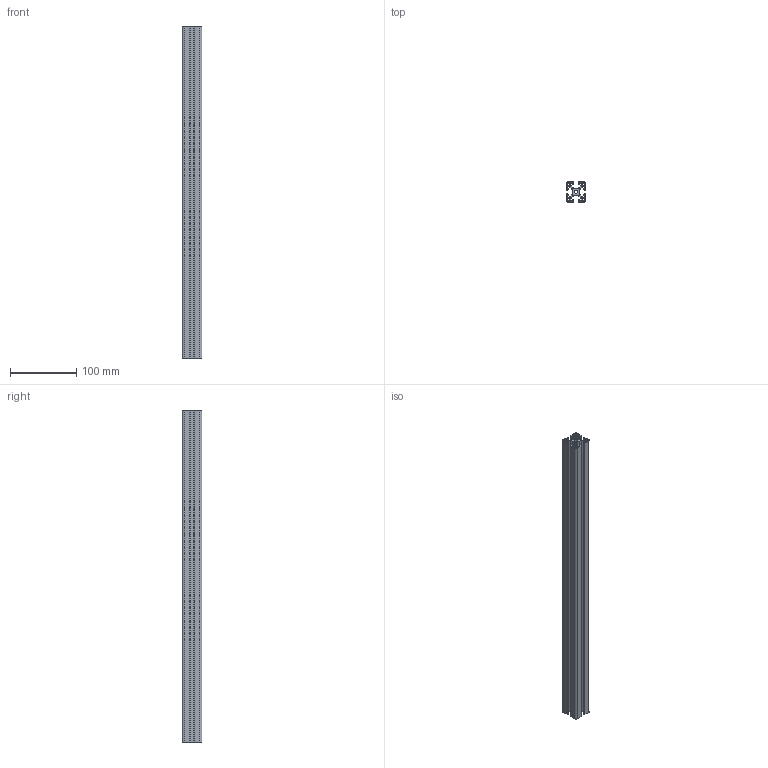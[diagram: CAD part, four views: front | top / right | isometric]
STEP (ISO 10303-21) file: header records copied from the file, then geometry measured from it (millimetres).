
FILE_DESCRIPTION (( 'STEP AP203' ), '1' );
FILE_NAME ('PP3060-500-Rollco.step', '2026-05-04T07:38:46', ( '' ), ( '' ), 'SwSTEP 2.0', 'SolidWorks 2014', '' );
FILE_SCHEMA (( 'CONFIG_CONTROL_DESIGN' ));
Length unit declared in the file: millimetre
Products named in the file (1): PP3060-500-Rollco
Bounding box: 30 x 30 x 500 mm (x, y, z)
Volume: 173430.8 mm3; surface area: 169133.6 mm2
Topology: 1 solids, 1 shells, 156 faces, 462 edges, 308 vertices
Faces by surface type: cylinder 78, plane 78
Entity records: 5359 total; most frequent: DIRECTION 932, CARTESIAN_POINT 927, ORIENTED_EDGE 924, EDGE_CURVE 462, AXIS2_PLACEMENT_3D 313, VERTEX_POINT 308, LINE 306, VECTOR 306
